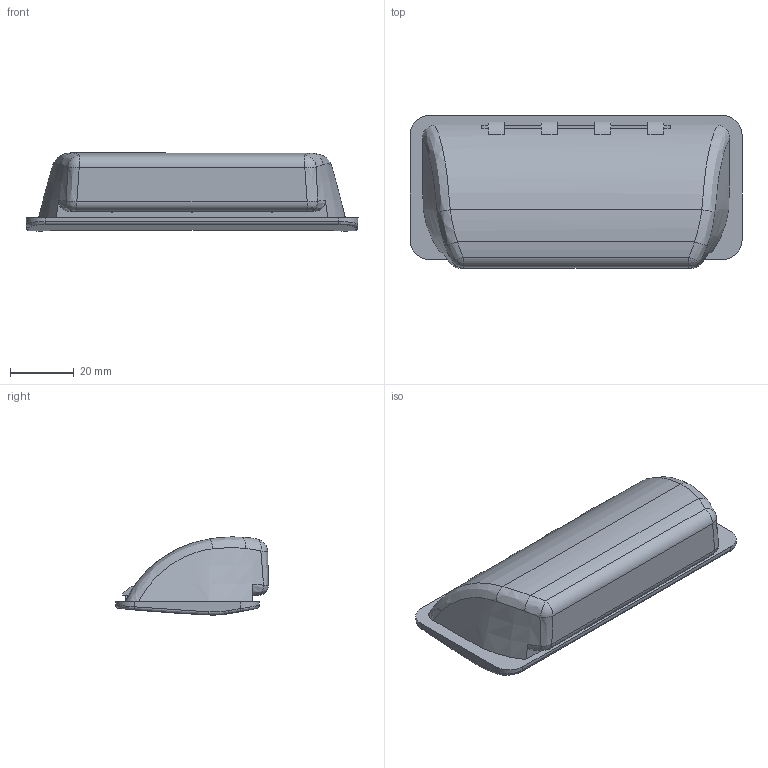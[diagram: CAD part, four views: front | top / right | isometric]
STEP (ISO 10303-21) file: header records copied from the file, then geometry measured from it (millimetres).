
FILE_DESCRIPTION (( 'STEP AP203' ), '1' );
FILE_NAME ('E25-25202.STEP', '2024-10-29T08:16:14', ( '' ), ( '' ), 'SwSTEP 2.0', 'SolidWorks 2021', '' );
FILE_SCHEMA (( 'CONFIG_CONTROL_DESIGN' ));
Length unit declared in the file: millimetre
Products named in the file (1): E25-25202
Bounding box: 104 x 47.84 x 24.46 mm (x, y, z)
Volume: 20165.7 mm3; surface area: 18955.1 mm2
Topology: 1 solids, 1 shells, 135 faces, 322 edges, 188 vertices
Faces by surface type: bspline 60, plane 41, cylinder 24, sphere 6, cone 4
Entity records: 5900 total; most frequent: CARTESIAN_POINT 3183, ORIENTED_EDGE 640, DIRECTION 428, EDGE_CURVE 320, VERTEX_POINT 188, AXIS2_PLACEMENT_3D 156, EDGE_LOOP 136, FACE_OUTER_BOUND 135
